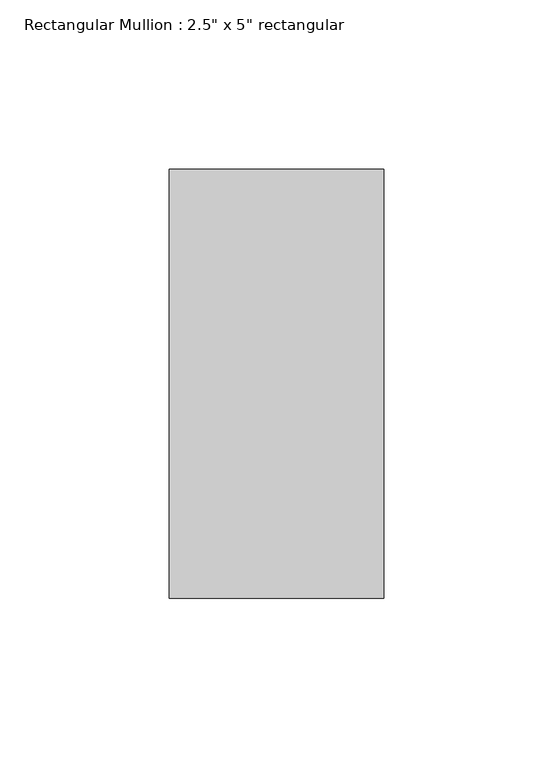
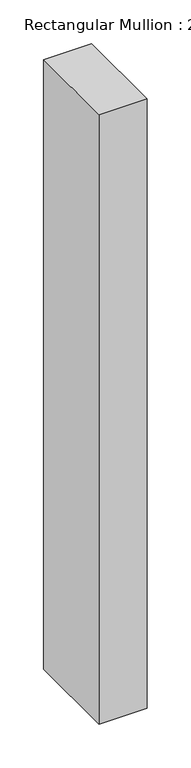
"""IFC4 building model written with IfcOpenShell, lengths in millimetres: member geometry."""

from ifc_helpers import new_model, si_unit, frame, origin, place, context, project, spatial, polyline, outline, extrude, source, transform, mapped, element, save


def member_d2e7e466(model_context):
    return source(origin(), model_context, "Body", "SweptSolid", [
        extrude(outline(polyline([(0.0, 63.5), (0.0, -63.5), (-63.5, -63.5), (-63.5, 63.5), (0.0, 63.5)])), frame((0.0, 0.0, -850.9), z_axis=(0.0, 0.0, 1.0), x_axis=(1.0, 0.0, 0.0)), (0.0, 0.0, 1.0), 850.9),
    ])


if __name__ == "__main__":
    model = new_model("IFC4")
    model_context = context("Model", 3, world=origin())
    ifc_project = project(units=[si_unit("LENGTHUNIT", "METRE", prefix="MILLI")], contexts=[model_context])
    site = spatial("IfcSite", under=ifc_project)
    building = spatial("IfcBuilding", under=site)
    placement = place(None, origin())
    member_shape = member_d2e7e466(model_context)
    element("IfcMember", 1, ObjectType="Rectangular Mullion : 2.5\" x 5\" rectangular", at=placement, inside=building, context=model_context, shape_type="MappedRepresentation", body=[
        mapped(member_shape, transform((0.0, 0.0, 0.0), x_axis=(1.0, 0.0, 0.0), y_axis=(0.0, 1.0, 0.0), z_axis=(0.0, 0.0, 1.0))),
    ])
    save(model, "model.ifc")
